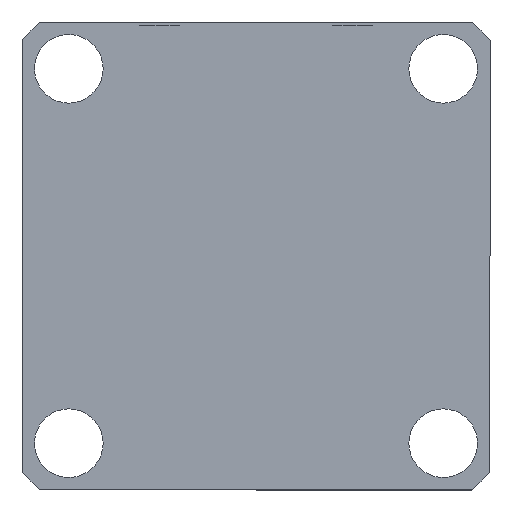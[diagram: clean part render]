
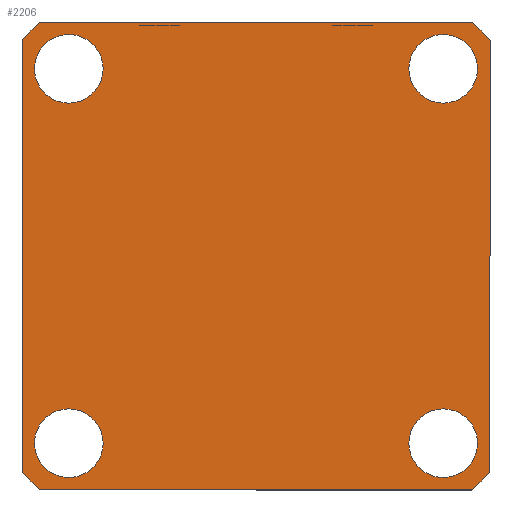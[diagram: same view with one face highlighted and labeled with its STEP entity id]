
A CAD part, front view. The second image highlights one B-rep face of the part: STEP entity #2206.
In plain terms, the highlighted planar face has unit normal (0, -1, 0).
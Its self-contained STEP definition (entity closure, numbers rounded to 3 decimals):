
#17 = CARTESIAN_POINT ( 'NONE',  ( 30., -22., 30. ) ) ;
#42 = DIRECTION ( 'NONE',  ( 0., 0., -1. ) ) ;
#44 = DIRECTION ( 'NONE',  ( 0., 1., 0. ) ) ;
#50 = LINE ( 'NONE', #2733, #562 ) ;
#65 = DIRECTION ( 'NONE',  ( 0., 1., 0. ) ) ;
#87 = CARTESIAN_POINT ( 'NONE',  ( -37.5, -22., -34.565 ) ) ;
#103 = CARTESIAN_POINT ( 'NONE',  ( -30., -22., 35.5 ) ) ;
#123 = CARTESIAN_POINT ( 'NONE',  ( -30., -22., -30. ) ) ;
#138 = CIRCLE ( 'NONE', #2220, 51. ) ;
#142 = DIRECTION ( 'NONE',  ( 0., 0., 1. ) ) ;
#156 = VERTEX_POINT ( 'NONE', #474 ) ;
#167 = ORIENTED_EDGE ( 'NONE', *, *, #3000, .F. ) ;
#182 = VECTOR ( 'NONE', #2052, 1000. ) ;
#199 = VERTEX_POINT ( 'NONE', #987 ) ;
#211 = VERTEX_POINT ( 'NONE', #2653 ) ;
#218 = FACE_BOUND ( 'NONE', #2896, .T. ) ;
#221 = ORIENTED_EDGE ( 'NONE', *, *, #2998, .T. ) ;
#227 = CARTESIAN_POINT ( 'NONE',  ( 0., -22., 0. ) ) ;
#238 = DIRECTION ( 'NONE',  ( 0., -1., 0. ) ) ;
#240 = CIRCLE ( 'NONE', #1868, 51. ) ;
#246 = CARTESIAN_POINT ( 'NONE',  ( -30., -22., 30. ) ) ;
#265 = CIRCLE ( 'NONE', #1246, 51. ) ;
#267 = DIRECTION ( 'NONE',  ( 0., 0., 1. ) ) ;
#307 = DIRECTION ( 'NONE',  ( 0., 1., 0. ) ) ;
#331 = CARTESIAN_POINT ( 'NONE',  ( -30., -22., 24.5 ) ) ;
#333 = EDGE_CURVE ( 'NONE', #199, #2542, #1126, .T. ) ;
#381 = DIRECTION ( 'NONE',  ( 0., 0., 1. ) ) ;
#408 = EDGE_CURVE ( 'NONE', #507, #1534, #1034, .T. ) ;
#409 = VECTOR ( 'NONE', #142, 1000. ) ;
#417 = ORIENTED_EDGE ( 'NONE', *, *, #1410, .T. ) ;
#467 = ORIENTED_EDGE ( 'NONE', *, *, #2087, .T. ) ;
#474 = CARTESIAN_POINT ( 'NONE',  ( 30., -22., 24.5 ) ) ;
#482 = LINE ( 'NONE', #899, #409 ) ;
#489 = EDGE_CURVE ( 'NONE', #1458, #1534, #138, .T. ) ;
#499 = ORIENTED_EDGE ( 'NONE', *, *, #489, .T. ) ;
#505 = DIRECTION ( 'NONE',  ( 0., 0., 1. ) ) ;
#507 = VERTEX_POINT ( 'NONE', #1296 ) ;
#523 = CARTESIAN_POINT ( 'NONE',  ( 34.565, -22., 37.5 ) ) ;
#562 = VECTOR ( 'NONE', #2497, 1000. ) ;
#573 = EDGE_CURVE ( 'NONE', #2217, #717, #50, .T. ) ;
#597 = ORIENTED_EDGE ( 'NONE', *, *, #2007, .F. ) ;
#636 = EDGE_CURVE ( 'NONE', #1458, #2462, #482, .T. ) ;
#696 = EDGE_CURVE ( 'NONE', #507, #1338, #240, .T. ) ;
#699 = AXIS2_PLACEMENT_3D ( 'NONE', #1580, #65, #1834 ) ;
#717 = VERTEX_POINT ( 'NONE', #523 ) ;
#769 = CARTESIAN_POINT ( 'NONE',  ( 0., -22., 0. ) ) ;
#822 = FACE_OUTER_BOUND ( 'NONE', #1648, .T. ) ;
#856 = ORIENTED_EDGE ( 'NONE', *, *, #573, .F. ) ;
#883 = ORIENTED_EDGE ( 'NONE', *, *, #408, .F. ) ;
#899 = CARTESIAN_POINT ( 'NONE',  ( -37.5, -22., -37.5 ) ) ;
#902 = AXIS2_PLACEMENT_3D ( 'NONE', #123, #1889, #381 ) ;
#927 = ORIENTED_EDGE ( 'NONE', *, *, #636, .F. ) ;
#979 = PLANE ( 'NONE',  #1533 ) ;
#987 = CARTESIAN_POINT ( 'NONE',  ( 30., -22., -24.5 ) ) ;
#989 = CARTESIAN_POINT ( 'NONE',  ( -34.565, -22., 37.5 ) ) ;
#1005 = CARTESIAN_POINT ( 'NONE',  ( -30., -22., -24.5 ) ) ;
#1006 = DIRECTION ( 'NONE',  ( 0., 1., 0. ) ) ;
#1027 = DIRECTION ( 'NONE',  ( 0., 1., 0. ) ) ;
#1029 = DIRECTION ( 'NONE',  ( 0., 0., -1. ) ) ;
#1034 = LINE ( 'NONE', #2175, #2266 ) ;
#1052 = CIRCLE ( 'NONE', #2885, 5.5 ) ;
#1069 = EDGE_CURVE ( 'NONE', #2542, #199, #3064, .T. ) ;
#1088 = CARTESIAN_POINT ( 'NONE',  ( 30., -22., 30. ) ) ;
#1094 = AXIS2_PLACEMENT_3D ( 'NONE', #246, #1997, #505 ) ;
#1126 = CIRCLE ( 'NONE', #699, 5.5 ) ;
#1146 = VERTEX_POINT ( 'NONE', #1607 ) ;
#1173 = EDGE_LOOP ( 'NONE', ( #2141, #2679 ) ) ;
#1180 = DIRECTION ( 'NONE',  ( 0., -1., 0. ) ) ;
#1195 = DIRECTION ( 'NONE',  ( -1., 0., 0. ) ) ;
#1246 = AXIS2_PLACEMENT_3D ( 'NONE', #2473, #1006, #2715 ) ;
#1296 = CARTESIAN_POINT ( 'NONE',  ( 34.565, -22., -37.5 ) ) ;
#1336 = DIRECTION ( 'NONE',  ( 0., 0., 1. ) ) ;
#1338 = VERTEX_POINT ( 'NONE', #1745 ) ;
#1361 = AXIS2_PLACEMENT_3D ( 'NONE', #1088, #2787, #1336 ) ;
#1397 = AXIS2_PLACEMENT_3D ( 'NONE', #2498, #1027, #2734 ) ;
#1402 = EDGE_LOOP ( 'NONE', ( #2102, #2577 ) ) ;
#1410 = EDGE_CURVE ( 'NONE', #211, #156, #1885, .T. ) ;
#1418 = CARTESIAN_POINT ( 'NONE',  ( -34.565, -22., -37.5 ) ) ;
#1458 = VERTEX_POINT ( 'NONE', #87 ) ;
#1482 = FACE_BOUND ( 'NONE', #1173, .T. ) ;
#1533 = AXIS2_PLACEMENT_3D ( 'NONE', #227, #238, #1987 ) ;
#1534 = VERTEX_POINT ( 'NONE', #1418 ) ;
#1555 = DIRECTION ( 'NONE',  ( 0., -1., 0. ) ) ;
#1557 = CARTESIAN_POINT ( 'NONE',  ( -30., -22., 30. ) ) ;
#1565 = CIRCLE ( 'NONE', #902, 5.5 ) ;
#1580 = CARTESIAN_POINT ( 'NONE',  ( 30., -22., -30. ) ) ;
#1581 = EDGE_CURVE ( 'NONE', #2217, #2462, #2049, .T. ) ;
#1607 = CARTESIAN_POINT ( 'NONE',  ( 37.5, -22., 34.565 ) ) ;
#1648 = EDGE_LOOP ( 'NONE', ( #883, #2208, #597, #167, #856, #2959, #927, #499 ) ) ;
#1661 = CIRCLE ( 'NONE', #3045, 5.5 ) ;
#1745 = CARTESIAN_POINT ( 'NONE',  ( 37.5, -22., -34.565 ) ) ;
#1784 = DIRECTION ( 'NONE',  ( 0., 1., 0. ) ) ;
#1813 = DIRECTION ( 'NONE',  ( 0., 0., 1. ) ) ;
#1823 = CARTESIAN_POINT ( 'NONE',  ( 30., -22., -30. ) ) ;
#1834 = DIRECTION ( 'NONE',  ( 0., 0., 1. ) ) ;
#1868 = AXIS2_PLACEMENT_3D ( 'NONE', #769, #2501, #1029 ) ;
#1878 = CARTESIAN_POINT ( 'NONE',  ( -37.5, -22., 34.565 ) ) ;
#1885 = CIRCLE ( 'NONE', #1361, 5.5 ) ;
#1889 = DIRECTION ( 'NONE',  ( 0., 1., 0. ) ) ;
#1894 = EDGE_CURVE ( 'NONE', #2561, #2250, #3031, .T. ) ;
#1987 = DIRECTION ( 'NONE',  ( 0., 0., -1. ) ) ;
#1997 = DIRECTION ( 'NONE',  ( 0., 1., 0. ) ) ;
#2007 = EDGE_CURVE ( 'NONE', #1146, #1338, #2807, .T. ) ;
#2049 = CIRCLE ( 'NONE', #3124, 51. ) ;
#2050 = DIRECTION ( 'NONE',  ( 0., 0., 1. ) ) ;
#2052 = DIRECTION ( 'NONE',  ( 0., 0., -1. ) ) ;
#2079 = CARTESIAN_POINT ( 'NONE',  ( -30., -22., -35.5 ) ) ;
#2087 = EDGE_CURVE ( 'NONE', #2831, #2444, #1052, .T. ) ;
#2102 = ORIENTED_EDGE ( 'NONE', *, *, #333, .T. ) ;
#2141 = ORIENTED_EDGE ( 'NONE', *, *, #2643, .T. ) ;
#2144 = FACE_BOUND ( 'NONE', #1402, .T. ) ;
#2175 = CARTESIAN_POINT ( 'NONE',  ( 37.5, -22., -37.5 ) ) ;
#2206 = ADVANCED_FACE ( 'NONE', ( #218, #2766, #2144, #1482, #822 ), #979, .T. ) ;
#2208 = ORIENTED_EDGE ( 'NONE', *, *, #696, .T. ) ;
#2217 = VERTEX_POINT ( 'NONE', #989 ) ;
#2220 = AXIS2_PLACEMENT_3D ( 'NONE', #2993, #1555, #42 ) ;
#2250 = VERTEX_POINT ( 'NONE', #1005 ) ;
#2266 = VECTOR ( 'NONE', #1195, 1000. ) ;
#2303 = CARTESIAN_POINT ( 'NONE',  ( 30., -22., -35.5 ) ) ;
#2311 = CARTESIAN_POINT ( 'NONE',  ( 37.5, -22., -37.5 ) ) ;
#2444 = VERTEX_POINT ( 'NONE', #103 ) ;
#2462 = VERTEX_POINT ( 'NONE', #1878 ) ;
#2473 = CARTESIAN_POINT ( 'NONE',  ( 0., -22., 0. ) ) ;
#2497 = DIRECTION ( 'NONE',  ( 1., 0., 0. ) ) ;
#2498 = CARTESIAN_POINT ( 'NONE',  ( -30., -22., -30. ) ) ;
#2501 = DIRECTION ( 'NONE',  ( 0., -1., 0. ) ) ;
#2542 = VERTEX_POINT ( 'NONE', #2303 ) ;
#2561 = VERTEX_POINT ( 'NONE', #2079 ) ;
#2577 = ORIENTED_EDGE ( 'NONE', *, *, #1069, .T. ) ;
#2604 = AXIS2_PLACEMENT_3D ( 'NONE', #1823, #307, #2050 ) ;
#2642 = CARTESIAN_POINT ( 'NONE',  ( 0., -22., 0. ) ) ;
#2643 = EDGE_CURVE ( 'NONE', #2250, #2561, #1565, .T. ) ;
#2653 = CARTESIAN_POINT ( 'NONE',  ( 30., -22., 35.5 ) ) ;
#2679 = ORIENTED_EDGE ( 'NONE', *, *, #1894, .T. ) ;
#2715 = DIRECTION ( 'NONE',  ( 0., 0., 1. ) ) ;
#2732 = CIRCLE ( 'NONE', #1094, 5.5 ) ;
#2733 = CARTESIAN_POINT ( 'NONE',  ( 37.5, -22., 37.5 ) ) ;
#2734 = DIRECTION ( 'NONE',  ( 0., 0., 1. ) ) ;
#2766 = FACE_BOUND ( 'NONE', #3098, .T. ) ;
#2787 = DIRECTION ( 'NONE',  ( 0., 1., 0. ) ) ;
#2807 = LINE ( 'NONE', #2311, #182 ) ;
#2821 = ORIENTED_EDGE ( 'NONE', *, *, #3170, .T. ) ;
#2831 = VERTEX_POINT ( 'NONE', #331 ) ;
#2879 = DIRECTION ( 'NONE',  ( 0., 0., -1. ) ) ;
#2885 = AXIS2_PLACEMENT_3D ( 'NONE', #1557, #44, #1813 ) ;
#2896 = EDGE_LOOP ( 'NONE', ( #221, #467 ) ) ;
#2959 = ORIENTED_EDGE ( 'NONE', *, *, #1581, .T. ) ;
#2993 = CARTESIAN_POINT ( 'NONE',  ( 0., -22., 0. ) ) ;
#2998 = EDGE_CURVE ( 'NONE', #2444, #2831, #2732, .T. ) ;
#3000 = EDGE_CURVE ( 'NONE', #717, #1146, #265, .T. ) ;
#3031 = CIRCLE ( 'NONE', #1397, 5.5 ) ;
#3045 = AXIS2_PLACEMENT_3D ( 'NONE', #17, #1784, #267 ) ;
#3064 = CIRCLE ( 'NONE', #2604, 5.5 ) ;
#3098 = EDGE_LOOP ( 'NONE', ( #417, #2821 ) ) ;
#3124 = AXIS2_PLACEMENT_3D ( 'NONE', #2642, #1180, #2879 ) ;
#3170 = EDGE_CURVE ( 'NONE', #156, #211, #1661, .T. ) ;
